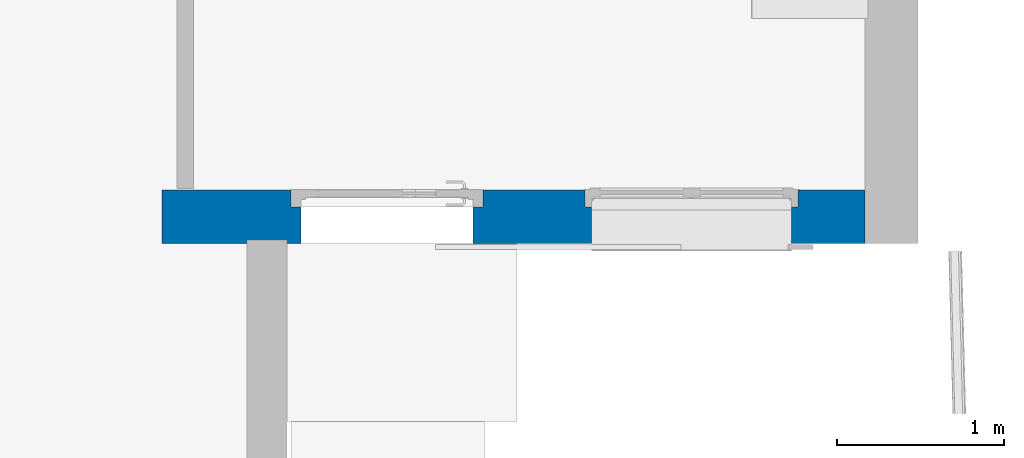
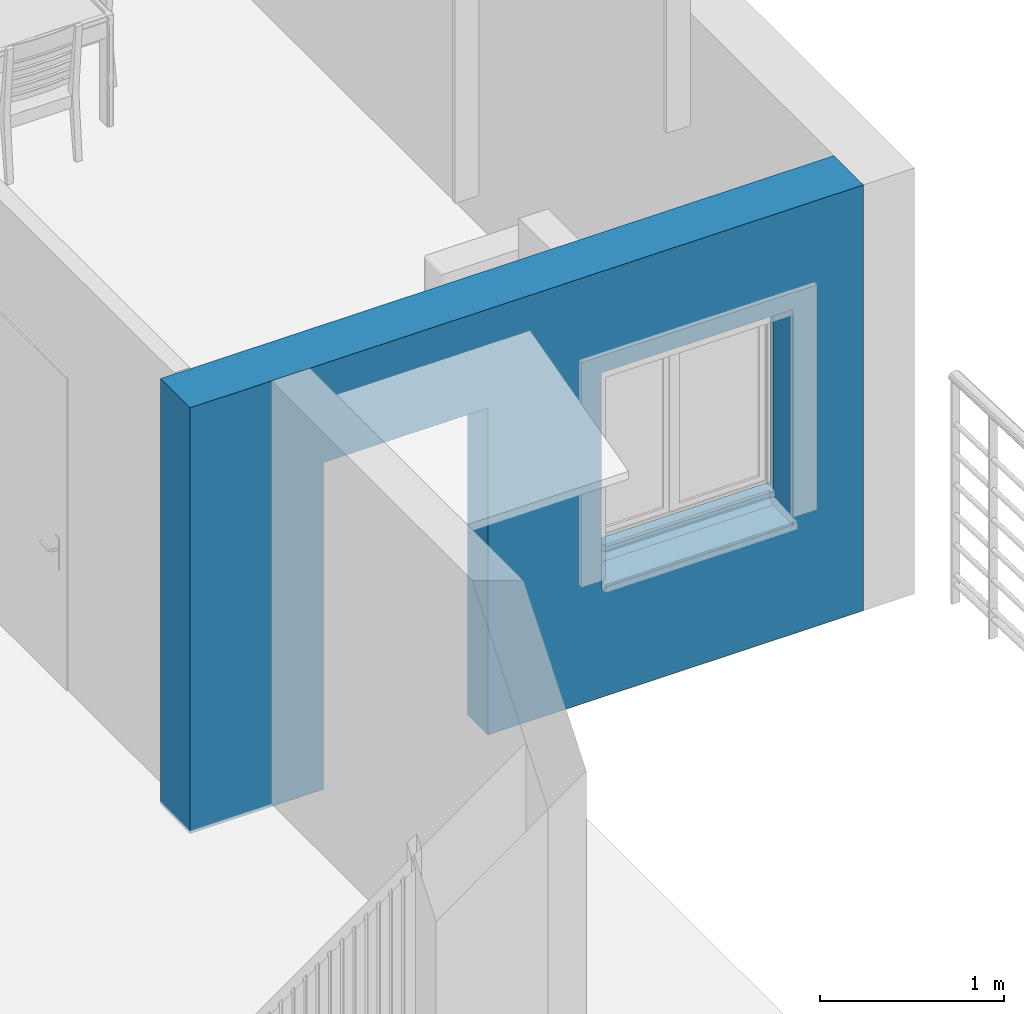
# One storey, part 21 of 33: 1 wall, 2 openings.
"""IFC2X3 building model written with IfcOpenShell, lengths in metres."""

import ifcopenshell
import ifcopenshell.guid

model = None  # the IFC model being written
_history = None  # IfcOwnerHistory: only IFC2X3 demands one
_inside = {}  # id of a spatial element -> (the spatial element, [elements in it])
_under = {}  # id of a project, library or spatial element -> (it, [spatial elements below it])
_declared = {}  # id of a project -> (the project, [libraries it declares])
_typed = {}  # id of a type object -> (the type object, [elements of that type])
_made_of = {}  # id of a material, layer set ... -> (it, [elements and type objects made of it])


def new_model(schema):
    """Start an empty IFC model of exactly this schema.

    Asked for "IFC4X3", IfcOpenShell would pick the latest addendum, in which some entities
    have other attributes; the version numbers below select the first issue.
    IFC2X3 requires an IfcOwnerHistory on every rooted entity: one is made here for all.
    """
    global model, _history
    if schema == "IFC4X3":
        model = ifcopenshell.file(schema_version=(4, 3, 0, 0))
    else:
        model = ifcopenshell.file(schema=schema)
    _inside.clear()
    _under.clear()
    _declared.clear()
    _typed.clear()
    _made_of.clear()
    _history = None
    if model.schema == "IFC2X3":
        org = make("IfcOrganization", Name="unknown")
        user = make(
            "IfcPersonAndOrganization",
            ThePerson=make("IfcPerson", FamilyName="unknown"),
            TheOrganization=org,
        )
        app = make(
            "IfcApplication",
            ApplicationDeveloper=org,
            Version="unknown",
            ApplicationFullName="unknown",
            ApplicationIdentifier="unknown",
        )
        _history = make(
            "IfcOwnerHistory",
            OwningUser=user,
            OwningApplication=app,
            ChangeAction="ADDED",
            CreationDate=0,
        )
    return model


def make(cls, **values):
    """One entity of the class cls with the attributes given. An attribute that is None is left unset."""
    return model.create_entity(
        cls, **{name: value for name, value in values.items() if value is not None}
    )


def entity(cls, *values):
    """Any entity or typed value of the class cls, its attributes in the order of the schema. None: left unset."""
    e = model.create_entity(cls)
    for i, value in enumerate(values):
        if value is not None:
            e[i] = value
    return e


def rooted(cls, **values):
    """An entity with a GlobalId (a new one), such as an element, a storey or a relation."""
    return make(cls, GlobalId=ifcopenshell.guid.new(), OwnerHistory=_history, **values)


def si_unit(unit_type, name, prefix=None):
    """IfcSIUnit, for example si_unit("LENGTHUNIT", "METRE", prefix="MILLI")."""
    return make("IfcSIUnit", UnitType=unit_type, Prefix=prefix, Name=name)


def converted_unit(unit_type, name, factor, base, dimensions=None, offset=None):
    """IfcConversionBasedUnit, such as the inch: factor (a typed value) times the base unit."""
    return make(
        "IfcConversionBasedUnit"
        if offset is None
        else "IfcConversionBasedUnitWithOffset",
        ConversionOffset=offset,
        Dimensions=None
        if dimensions is None
        else entity("IfcDimensionalExponents", *dimensions),
        UnitType=unit_type,
        Name=name,
        ConversionFactor=make(
            "IfcMeasureWithUnit", ValueComponent=factor, UnitComponent=base
        ),
    )


def derived_unit(unit_type, elements):
    """IfcDerivedUnit: a product of units, each with its exponent."""
    return make(
        "IfcDerivedUnit",
        Elements=[
            make("IfcDerivedUnitElement", Unit=unit, Exponent=power)
            for unit, power in elements
        ],
        UnitType=unit_type,
    )


def assignment(units):
    """IfcUnitAssignment: the units of a project."""
    return None if units is None else make("IfcUnitAssignment", Units=units)


def point(xyz):
    """IfcCartesianPoint."""
    return None if xyz is None else make("IfcCartesianPoint", Coordinates=xyz)


def direction(xyz):
    """IfcDirection."""
    return None if xyz is None else make("IfcDirection", DirectionRatios=xyz)


def frame(location, z_axis=None, x_axis=None):
    """IfcAxis2Placement3D, a coordinate frame: its origin and axes. An axis left out is left unset."""
    return make(
        "IfcAxis2Placement3D",
        Location=point(location),
        Axis=direction(z_axis),
        RefDirection=direction(x_axis),
    )


def frame_2d(location, x_axis=None):
    """IfcAxis2Placement2D, a coordinate frame in the plane: its origin and x axis."""
    return make(
        "IfcAxis2Placement2D", Location=point(location), RefDirection=direction(x_axis)
    )


def origin():
    """The frame at (0, 0, 0) with its axes left unset."""
    return frame((0.0, 0.0, 0.0))


def place(relative_to, where):
    """IfcLocalPlacement: puts the frame where relative to a parent placement (None: the world)."""
    return make(
        "IfcLocalPlacement", PlacementRelTo=relative_to, RelativePlacement=where
    )


def context(
    kind, dimensions, precision=None, world=None, true_north=None, identifier=None
):
    """IfcGeometricRepresentationContext, for example the 3D "Model" context."""
    return make(
        "IfcGeometricRepresentationContext",
        ContextIdentifier=identifier,
        ContextType=kind,
        CoordinateSpaceDimension=dimensions,
        Precision=precision,
        WorldCoordinateSystem=world,
        TrueNorth=true_north,
    )


def subcontext(parent, identifier, kind, view, scale=None):
    """IfcGeometricRepresentationSubContext, for example "Body" below "Model"."""
    return make(
        "IfcGeometricRepresentationSubContext",
        ContextIdentifier=identifier,
        ContextType=kind,
        ParentContext=parent,
        TargetScale=scale,
        TargetView=view,
    )


def project(units=None, contexts=None):
    """IfcProject with its units and contexts."""
    return rooted(
        "IfcProject",
        Name="project",
        RepresentationContexts=contexts,
        UnitsInContext=assignment(units),
    )


def spatial(cls, under=None, at=None, **own):
    """A site, building, storey or space (cls), placed at a placement, below another one or the project."""
    s = rooted(cls, ObjectPlacement=at, **own)
    if under is not None:
        _under.setdefault(under.id(), (under, []))[1].append(s)
    return s


def profile(cls, at=None, kind="AREA", **sizes):
    """A parametric profile (cls). Its sizes go by their IFC names, for example OverallWidth=200.0."""
    return make(cls, ProfileType=kind, Position=at, **sizes)


def rectangle(**sizes):
    """IfcRectangleProfileDef."""
    return profile("IfcRectangleProfileDef", **sizes)


def extrude(swept, where, along, depth):
    """IfcExtrudedAreaSolid: the profile swept, set in the frame where, extruded along a direction by depth."""
    return make(
        "IfcExtrudedAreaSolid",
        SweptArea=swept,
        Position=where,
        ExtrudedDirection=direction(along),
        Depth=depth,
    )


def faces_of(points, faces, orient=None, outer=None):
    """IfcFace entities. A face is a list of loops; a loop is a list of indices into points, from 0.

    orient and outer hold one flag for each loop. By default every Orientation is true, the
    first loop of a face is its IfcFaceOuterBound and the others are IfcFaceBound.
    """
    made = []
    for i, loops in enumerate(faces):
        bounds = []
        for j, loop in enumerate(loops):
            is_outer = j == 0 if outer is None else outer[i][j]
            bounds.append(
                make(
                    "IfcFaceOuterBound" if is_outer else "IfcFaceBound",
                    Bound=make("IfcPolyLoop", Polygon=[points[k] for k in loop]),
                    Orientation=True if orient is None else orient[i][j],
                )
            )
        made.append(make("IfcFace", Bounds=bounds))
    return made


def faceted_brep(points, faces, orient=None, outer=None, voids=None):
    """IfcFacetedBrep: a solid bounded by flat faces; with voids (closed shells), ...WithVoids."""
    shared = [point(p) for p in points]
    hull = make("IfcClosedShell", CfsFaces=faces_of(shared, faces, orient, outer))
    if voids is None:
        return make("IfcFacetedBrep", Outer=hull)
    return make(
        "IfcFacetedBrepWithVoids",
        Outer=hull,
        Voids=[
            make(cls, CfsFaces=faces_of(shared, fs, o, b)) for cls, fs, o, b in voids
        ],
    )


def shape(context_of_items, identifier, shape_type, items):
    """IfcShapeRepresentation: the items that make up one representation, for example the "Body"."""
    return make(
        "IfcShapeRepresentation",
        ContextOfItems=context_of_items,
        RepresentationIdentifier=identifier,
        RepresentationType=shape_type,
        Items=items,
    )


def material(Name=None, Category=None):
    """IfcMaterial."""
    return make("IfcMaterial", Name=Name, Category=Category)


def layer(
    of_material, thickness, ventilated=None, Name=None, Category=None, Priority=None
):
    """IfcMaterialLayer: one layer of a wall or slab, of a material (None: an air gap)."""
    return make(
        "IfcMaterialLayer",
        Material=of_material,
        LayerThickness=thickness,
        IsVentilated=ventilated,
        Name=Name,
        Category=Category,
        Priority=Priority,
    )


def layer_set(layers, Name=None):
    """IfcMaterialLayerSet."""
    return make("IfcMaterialLayerSet", MaterialLayers=layers, LayerSetName=Name)


def layer_usage(for_layer_set, set_direction, sense, offset, extent=None):
    """IfcMaterialLayerSetUsage: how a layer set lies in its element."""
    return make(
        "IfcMaterialLayerSetUsage",
        ForLayerSet=for_layer_set,
        LayerSetDirection=set_direction,
        DirectionSense=sense,
        OffsetFromReferenceLine=offset,
        ReferenceExtent=extent,
    )


def made_of(thing, what):
    """Note that an element or type object is made of a material, layer set ...; save() writes the relation."""
    if what is not None:
        _made_of.setdefault(what.id(), (what, []))[1].append(thing)
    return thing


def type_object(cls, material=None, **own):
    """A type object (cls), such as IfcWallType, which elements share."""
    return made_of(rooted(cls, **own), material)


def element(
    cls,
    number,
    at=None,
    inside=None,
    cuts=None,
    type_object=None,
    material=None,
    context=None,
    identifier="Body",
    shape_type=None,
    held_by="IfcProductDefinitionShape",
    body=None,
    shapes=None,
    **own,
):
    """One element of the class cls, such as IfcWall. Its Tag is "e" and its number.

    at: its placement. inside: the storey or other place that contains it. cuts: it is an
    opening in that element (IfcRelVoidsElement). A single representation is given by context,
    identifier, shape_type and body (its items); several are given by shapes. held_by: the class
    of the entity that holds the representations. save() writes the other relations.
    """
    e = rooted(cls, Tag="e%d" % number, ObjectPlacement=at, **own)
    if body is not None:
        shapes = [shape(context, identifier, shape_type, body)]
    if shapes is not None:
        e.Representation = make(held_by, Representations=shapes)
    if inside is not None:
        _inside.setdefault(inside.id(), (inside, []))[1].append(e)
    if cuts is not None:
        rooted(
            "IfcRelVoidsElement", RelatingBuildingElement=cuts, RelatedOpeningElement=e
        )
    if type_object is not None:
        _typed.setdefault(type_object.id(), (type_object, []))[1].append(e)
    return made_of(e, material)


def aggregate(whole, parts):
    """IfcRelAggregates: a whole, such as a stair, and the parts it consists of."""
    return rooted("IfcRelAggregates", RelatingObject=whole, RelatedObjects=parts)


def save(model, path):
    """Write the relations noted so far, then the file.

    IfcRelAggregates (storeys below a building ...), IfcRelContainedInSpatialStructure (elements
    in a storey), IfcRelDefinesByType, IfcRelAssociatesMaterial and IfcRelDeclares: one each for
    every whole, place, type object, material and project.
    """
    for whole, parts in _under.values():
        aggregate(whole, parts)
    for where, things in _inside.values():
        rooted(
            "IfcRelContainedInSpatialStructure",
            RelatedElements=things,
            RelatingStructure=where,
        )
    for kind, things in _typed.values():
        rooted("IfcRelDefinesByType", RelatedObjects=things, RelatingType=kind)
    for what, things in _made_of.values():
        rooted("IfcRelAssociatesMaterial", RelatedObjects=things, RelatingMaterial=what)
    for by, libraries in _declared.values():
        rooted("IfcRelDeclares", RelatingContext=by, RelatedDefinitions=libraries)
    model.write(path)


model = new_model("IFC2X3")

# Units and contexts
model_context = context("Model", 3, precision=1e-05, world=origin(), true_north=direction((6.12303176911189e-17, 1.0)))
context_of_model = context(None, 3, precision=1e-05, world=origin(), true_north=direction((6.12303176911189e-17, 1.0)))
body_context = subcontext(model_context, "Body", "Model", "MODEL_VIEW")
ifc_project = project(units=[si_unit("LENGTHUNIT", "METRE"), si_unit("AREAUNIT", "SQUARE_METRE"), si_unit("VOLUMEUNIT", "CUBIC_METRE"), converted_unit("PLANEANGLEUNIT", "DEGREE", entity("IfcRatioMeasure", 0.0174532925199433), si_unit("PLANEANGLEUNIT", "RADIAN"), dimensions=[0, 0, 0, 0, 0, 0, 0]), si_unit("MASSUNIT", "GRAM", prefix="KILO"), si_unit("TIMEUNIT", "SECOND"), si_unit("FREQUENCYUNIT", "HERTZ"), si_unit("THERMODYNAMICTEMPERATUREUNIT", "DEGREE_CELSIUS"), derived_unit("THERMALTRANSMITTANCEUNIT", [(si_unit("MASSUNIT", "GRAM", prefix="KILO"), 1), (si_unit("THERMODYNAMICTEMPERATUREUNIT", "KELVIN"), -1), (si_unit("TIMEUNIT", "SECOND"), -3)]), derived_unit("VOLUMETRICFLOWRATEUNIT", [(si_unit("LENGTHUNIT", "METRE"), 3), (si_unit("TIMEUNIT", "SECOND"), -1)]), si_unit("ELECTRICCURRENTUNIT", "AMPERE"), si_unit("ELECTRICVOLTAGEUNIT", "VOLT"), si_unit("POWERUNIT", "WATT"), si_unit("FORCEUNIT", "NEWTON", prefix="KILO"), si_unit("ILLUMINANCEUNIT", "LUX"), si_unit("LUMINOUSFLUXUNIT", "LUMEN"), si_unit("LUMINOUSINTENSITYUNIT", "CANDELA"), si_unit("PRESSUREUNIT", "PASCAL")], contexts=[model_context, context_of_model])

# Site, building, storey
site_placement = place(None, origin())
site = spatial("IfcSite", under=ifc_project, at=site_placement, Name="Surface", CompositionType="ELEMENT")
building_placement = place(site_placement, origin())
building = spatial("IfcBuilding", under=site, at=building_placement, CompositionType="ELEMENT")
storey_placement = place(building_placement, origin())
storey = spatial("IfcBuildingStorey", under=building, at=storey_placement, Name="Plan des fondations  Maisons 1 et 2", CompositionType="ELEMENT", Elevation=0.0)

# Wall, openings
ifc_material_1 = material(Name="Enduit blanc cassé2")
ifc_layer_1 = layer(ifc_material_1, 0.02)
ifc_material_2 = material(Name="Parpaing")
ifc_layer_2 = layer(ifc_material_2, 0.2)
ifc_material_3 = material(Name="Isolant")
ifc_layer_3 = layer(ifc_material_3, 0.1)
ifc_layer_set = layer_set([ifc_layer_1, ifc_layer_2, ifc_layer_3], Name="Mur de base:Ext. Parpaing 20 + Isolant 10 enduit blanc cassé")
ifc_layer_usage = layer_usage(ifc_layer_set, "AXIS2", "NEGATIVE", 0.16)
wall_type = type_object("IfcWallType", Name="Mur de base:Ext. Parpaing 20 + Isolant 10 enduit blanc cassé", PredefinedType="STANDARD", material=ifc_layer_set)
wall_placement = place(building_placement, frame((90.8350487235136, 84.0875239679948, 0.0), z_axis=(0.0, 0.0, 1.0), x_axis=(-1.0, 0.0, 0.0)))
wall = element("IfcWallStandardCase", 1, at=wall_placement, inside=storey, type_object=wall_type, material=ifc_layer_usage, Name="Mur de base:Ext. Parpaing 20 + Isolant 10 enduit blanc cassé", ObjectType="Mur de base:Ext. Parpaing 20 + Isolant 10 enduit blanc cassé", context=body_context, shape_type="SweptSolid", body=[
    extrude(rectangle(XDim=4.21826294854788, YDim=0.319999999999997, at=frame_2d((2.10913147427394, 5.55111512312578e-16), x_axis=(-1.0, 0.0))), origin(), (0.0, 0.0, 1.0), 2.82),
])
opening_1_placement = place(wall_placement, frame((3.44326294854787, 0.5, 0.0), z_axis=(0.0, 0.0, 1.0), x_axis=(-1.0, 0.0, 0.0)))
element("IfcOpeningElement", 2, at=opening_1_placement, cuts=wall, Name="Mur de base:Ext. Parpaing 20 + Isolant 10 enduit blanc cassé", ObjectType="Opening", context=body_context, shape_type="Brep", body=[
    faceted_brep([(1.08999999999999, 0.0, 0.0), (1.08999999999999, 0.0, 2.16499999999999), (0.0599999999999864, 0.0, 2.16499999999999), (0.0599999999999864, 0.0, 0.0), (1.08999999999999, 1.0, 0.0), (0.0599999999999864, 1.0, 0.0), (0.0599999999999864, 1.0, 2.16499999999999), (1.08999999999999, 1.0, 2.16499999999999), (0.0599999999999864, 0.559999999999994, 0.0), (0.0, 0.559999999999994, 0.0), (0.0, 0.910000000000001, 0.0), (0.0600000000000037, 0.910000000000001, 0.0), (1.08999999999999, 0.910000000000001, 0.0), (1.15, 0.910000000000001, 0.0), (1.14999999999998, 0.559999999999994, 0.0), (1.08999999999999, 0.559999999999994, 0.0), (0.0599999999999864, 0.559999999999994, 2.16499999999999), (1.08999999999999, 0.559999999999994, 2.16499999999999), (1.15, 0.910000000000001, 2.225), (1.08999999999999, 0.910000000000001, 2.16499999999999), (0.0599999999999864, 0.910000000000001, 2.16499999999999), (0.0, 0.910000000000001, 2.225), (1.15, 0.559999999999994, 2.225), (0.0, 0.559999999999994, 2.225)], [[[0, 1, 2, 3]], [[4, 5, 6, 7]], [[0, 3, 8, 9, 10, 11, 5, 4, 12, 13, 14, 15]], [[3, 2, 16, 8]], [[2, 1, 17, 16]], [[1, 0, 15, 17]], [[18, 13, 12, 19, 20, 11, 10, 21]], [[22, 23, 9, 8, 16, 17, 15, 14]], [[18, 21, 23, 22]], [[21, 10, 9, 23]], [[13, 18, 22, 14]], [[4, 7, 19, 12]], [[7, 6, 20, 19]], [[6, 5, 11, 20]]]),
])
opening_2_placement = place(wall_placement, frame((1.68999999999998, 0.5, 0.719999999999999), z_axis=(0.0, 0.0, 1.0), x_axis=(-1.0, 0.0, 0.0)))
element("IfcOpeningElement", 3, at=opening_2_placement, cuts=wall, Name="Mur de base:Ext. Parpaing 20 + Isolant 10 enduit blanc cassé", ObjectType="Opening", context=body_context, shape_type="Brep", body=[
    faceted_brep([(0.0499999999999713, 1.0, 1.43), (1.24999999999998, 1.0, 1.43), (1.24999999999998, 1.0, 0.0799999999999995), (0.0499999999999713, 1.0, 0.0799999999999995), (0.0499999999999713, 0.0, 1.43), (0.0499999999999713, 0.0, 0.0799999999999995), (1.24999999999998, 0.0, 0.0799999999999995), (1.24999999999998, 0.0, 1.43), (0.0499999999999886, 0.672999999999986, 1.43), (1.24999999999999, 0.672999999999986, 1.43), (1.24999999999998, 0.673000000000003, 0.0799999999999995), (1.28999999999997, 0.673000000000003, 0.0799999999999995), (1.28999999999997, 0.559999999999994, 0.0799999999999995), (1.24999999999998, 0.559999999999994, 0.0799999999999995), (1.24999999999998, 0.594999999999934, 0.0799999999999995), (0.0499999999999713, 0.594999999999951, 0.0799999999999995), (0.0499999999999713, 0.559999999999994, 0.0799999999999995), (0.0099999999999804, 0.559999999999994, 0.0799999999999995), (0.0099999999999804, 0.673000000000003, 0.0799999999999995), (0.0499999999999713, 0.673000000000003, 0.0799999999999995), (0.0099999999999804, 0.672999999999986, 1.47), (1.28999999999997, 0.672999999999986, 1.47), (1.28999999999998, 0.559999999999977, 1.47), (1.29999999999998, 0.559999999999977, 1.47), (1.29999999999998, 0.559999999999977, 1.65), (0.0, 0.559999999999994, 1.65), (0.0, 0.559999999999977, 1.47), (0.0099999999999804, 0.559999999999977, 1.47), (0.0499999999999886, 0.559999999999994, 1.43), (1.24999999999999, 0.559999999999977, 1.43), (1.29999999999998, 0.692999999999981, 1.65), (1.29999999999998, 0.692999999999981, 1.47), (0.0, 0.692999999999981, 1.65), (0.0, 0.692999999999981, 1.47), (1.24999999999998, 0.559999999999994, 0.0), (0.0499999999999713, 0.559999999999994, 0.0), (0.0499999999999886, 0.594999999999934, 0.0349999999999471), (1.24999999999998, 0.594999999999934, 0.0349999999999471), (1.24999999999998, 0.294999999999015, 0.0799999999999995), (0.0499999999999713, 0.294999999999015, 0.0799999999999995), (0.0499999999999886, 0.294999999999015, 0.0), (1.24999999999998, 0.294999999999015, 0.0)], [[[0, 1, 2, 3]], [[4, 5, 6, 7]], [[0, 8, 9, 1]], [[1, 9, 10, 2]], [[2, 10, 11, 12, 13, 14, 15, 16, 17, 18, 19, 3]], [[3, 19, 8, 0]], [[10, 9, 8, 19, 18, 20, 21, 11]], [[11, 21, 22, 12]], [[12, 22, 23, 24, 25, 26, 27, 17, 16, 28, 29, 13]], [[18, 17, 27, 20]], [[30, 24, 23, 31]], [[32, 33, 26, 25]], [[30, 32, 25, 24]], [[23, 22, 21, 20, 27, 26, 33, 31]], [[31, 33, 32, 30]], [[34, 35, 36, 37]], [[37, 36, 15, 14]], [[38, 39, 40, 41]], [[41, 40, 35, 34]], [[4, 28, 16, 15, 36, 35, 40, 39, 5]], [[5, 39, 38, 6]], [[6, 38, 41, 34, 37, 14, 13, 29, 7]], [[7, 29, 28, 4]]]),
])

save(model, "model.ifc")
